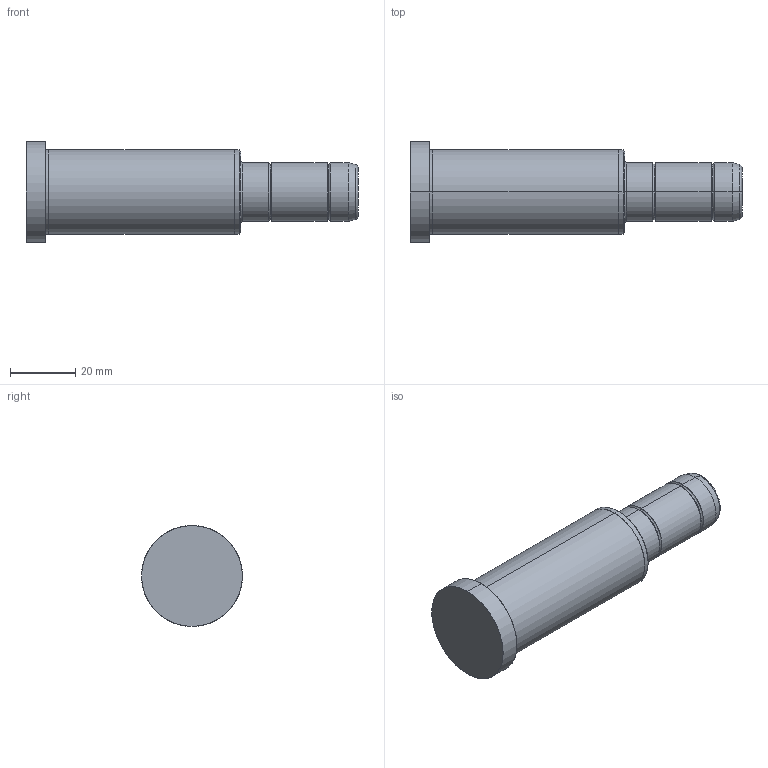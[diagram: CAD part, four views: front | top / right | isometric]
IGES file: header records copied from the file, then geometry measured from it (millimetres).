
Start section: SolidWorks IGES file using analytic representation for surfaces
Global section: file name: C:\Documents and Settings\kalite-mail\Desktop\IGS\D02\18\D02 - 18x66x36.IGS; native system: SolidWorks 2008; preprocessor: SolidWorks 2008; author: kalite-mail; date: 080616.153649; units: millimetre
Bounding box: 102 x 31 x 31 mm (x, y, z)
Surface area: 9000.5 mm2 (no closed solid volume)
Topology: 0 solids, 0 shells, 36 faces, 504 edges, 504 vertices
Faces by surface type: bspline 18, revolution 18
